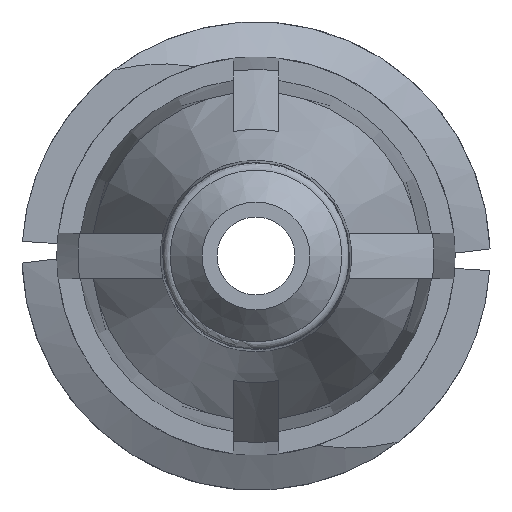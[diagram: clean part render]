
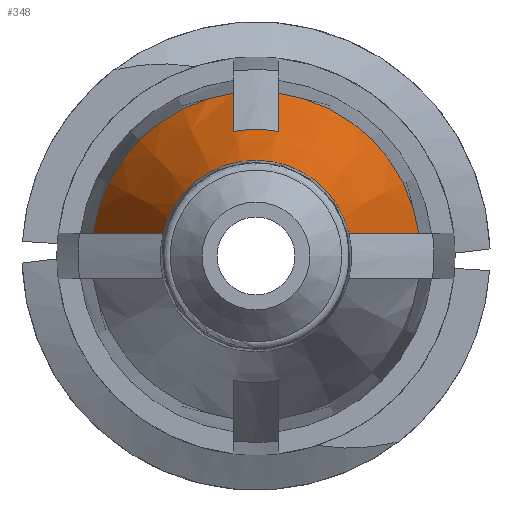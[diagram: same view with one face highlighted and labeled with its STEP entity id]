
A CAD part, front view. The second image highlights one B-rep face of the part: STEP entity #348.
In plain terms, the highlighted conical face has half-angle 20 degrees and reference radius 2.745 mm.
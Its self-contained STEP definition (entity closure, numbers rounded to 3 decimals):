
#6 = DIRECTION ( 'NONE',  ( 0., -1., 0. ) ) ;
#95 = CARTESIAN_POINT ( 'NONE',  ( 1.554, -13.458, 0.381 ) ) ;
#106 = ORIENTED_EDGE ( 'NONE', *, *, #1092, .F. ) ;
#120 = AXIS2_PLACEMENT_3D ( 'NONE', #1454, #629, #1775 ) ;
#150 = B_SPLINE_CURVE_WITH_KNOTS ( 'NONE', 3,
 ( #1076, #421, #1100, #1872 ),
 .UNSPECIFIED., .F., .F.,
 ( 4, 4 ),
 ( 0.002, 0.004 ),
 .UNSPECIFIED. ) ;
#183 = CARTESIAN_POINT ( 'NONE',  ( -2.719, -10.312, 0.381 ) ) ;
#191 = VERTEX_POINT ( 'NONE', #809 ) ;
#192 = CARTESIAN_POINT ( 'NONE',  ( -1.947, -12.411, 0.381 ) ) ;
#196 = CARTESIAN_POINT ( 'NONE',  ( -2.719, -10.312, 0.381 ) ) ;
#218 = AXIS2_PLACEMENT_3D ( 'NONE', #473, #1139, #1097 ) ;
#230 = VERTEX_POINT ( 'NONE', #1810 ) ;
#345 = AXIS2_PLACEMENT_3D ( 'NONE', #1127, #1284, #1965 ) ;
#348 = ADVANCED_FACE ( 'NONE', ( #611 ), #761, .T. ) ;
#351 = CARTESIAN_POINT ( 'NONE',  ( -2.333, -11.362, 0.381 ) ) ;
#380 = CARTESIAN_POINT ( 'NONE',  ( 0.381, -10.888, 2.507 ) ) ;
#390 = ORIENTED_EDGE ( 'NONE', *, *, #1379, .F. ) ;
#392 = CARTESIAN_POINT ( 'NONE',  ( 0.381, -10.312, 2.719 ) ) ;
#421 = CARTESIAN_POINT ( 'NONE',  ( -0.381, -11.463, 2.295 ) ) ;
#473 = CARTESIAN_POINT ( 'NONE',  ( 0., -13.458, 0. ) ) ;
#611 = FACE_OUTER_BOUND ( 'NONE', #1659, .T. ) ;
#629 = DIRECTION ( 'NONE',  ( 0., 1., 0. ) ) ;
#650 = CIRCLE ( 'NONE', #1531, 2.745 ) ;
#662 = EDGE_CURVE ( 'NONE', #1605, #191, #952, .T. ) ;
#665 = CARTESIAN_POINT ( 'NONE',  ( -0.381, -10.312, 2.719 ) ) ;
#717 = ORIENTED_EDGE ( 'NONE', *, *, #925, .F. ) ;
#722 = VERTEX_POINT ( 'NONE', #824 ) ;
#729 = CARTESIAN_POINT ( 'NONE',  ( 0.381, -12.038, 2.082 ) ) ;
#741 = CARTESIAN_POINT ( 'NONE',  ( 2.333, -11.362, 0.381 ) ) ;
#761 = CONICAL_SURFACE ( 'NONE', #120, 2.745, 0.349 ) ;
#783 = ORIENTED_EDGE ( 'NONE', *, *, #662, .T. ) ;
#809 = CARTESIAN_POINT ( 'NONE',  ( -1.554, -13.458, 0.381 ) ) ;
#824 = CARTESIAN_POINT ( 'NONE',  ( 1.554, -13.458, 0.381 ) ) ;
#835 = AXIS2_PLACEMENT_3D ( 'NONE', #1494, #6, #1311 ) ;
#889 = DIRECTION ( 'NONE',  ( 0., 1., 0. ) ) ;
#892 = B_SPLINE_CURVE_WITH_KNOTS ( 'NONE', 3,
 ( #392, #380, #904, #729 ),
 .UNSPECIFIED., .F., .F.,
 ( 4, 4 ),
 ( 0.003, 0.005 ),
 .UNSPECIFIED. ) ;
#904 = CARTESIAN_POINT ( 'NONE',  ( 0.381, -11.463, 2.295 ) ) ;
#925 = EDGE_CURVE ( 'NONE', #230, #722, #998, .T. ) ;
#952 = B_SPLINE_CURVE_WITH_KNOTS ( 'NONE', 3,
 ( #183, #351, #192, #1141 ),
 .UNSPECIFIED., .F., .F.,
 ( 4, 4 ),
 ( 0.003, 0.007 ),
 .UNSPECIFIED. ) ;
#998 = B_SPLINE_CURVE_WITH_KNOTS ( 'NONE', 3,
 ( #1712, #741, #1878, #95 ),
 .UNSPECIFIED., .F., .F.,
 ( 4, 4 ),
 ( 0.003, 0.007 ),
 .UNSPECIFIED. ) ;
#1076 = CARTESIAN_POINT ( 'NONE',  ( -0.381, -12.038, 2.082 ) ) ;
#1086 = CIRCLE ( 'NONE', #218, 1.6 ) ;
#1092 = EDGE_CURVE ( 'NONE', #1362, #230, #650, .T. ) ;
#1097 = DIRECTION ( 'NONE',  ( 1., 0., 0. ) ) ;
#1100 = CARTESIAN_POINT ( 'NONE',  ( -0.381, -10.888, 2.507 ) ) ;
#1127 = CARTESIAN_POINT ( 'NONE',  ( 0., -10.312, 0. ) ) ;
#1139 = DIRECTION ( 'NONE',  ( 0., 1., 0. ) ) ;
#1141 = CARTESIAN_POINT ( 'NONE',  ( -1.554, -13.458, 0.381 ) ) ;
#1161 = CARTESIAN_POINT ( 'NONE',  ( 0.381, -10.312, 2.719 ) ) ;
#1206 = VERTEX_POINT ( 'NONE', #1271 ) ;
#1271 = CARTESIAN_POINT ( 'NONE',  ( 0.381, -12.038, 2.082 ) ) ;
#1281 = CIRCLE ( 'NONE', #345, 2.745 ) ;
#1284 = DIRECTION ( 'NONE',  ( 0., 1., 0. ) ) ;
#1290 = EDGE_CURVE ( 'NONE', #2050, #1660, #150, .T. ) ;
#1311 = DIRECTION ( 'NONE',  ( -1., 0., 0. ) ) ;
#1362 = VERTEX_POINT ( 'NONE', #1161 ) ;
#1363 = ORIENTED_EDGE ( 'NONE', *, *, #1290, .T. ) ;
#1379 = EDGE_CURVE ( 'NONE', #1605, #1660, #1281, .T. ) ;
#1384 = CARTESIAN_POINT ( 'NONE',  ( -0.381, -12.038, 2.082 ) ) ;
#1454 = CARTESIAN_POINT ( 'NONE',  ( 0., -10.312, 0. ) ) ;
#1494 = CARTESIAN_POINT ( 'NONE',  ( 0., -12.038, 0. ) ) ;
#1531 = AXIS2_PLACEMENT_3D ( 'NONE', #1863, #889, #1717 ) ;
#1570 = EDGE_CURVE ( 'NONE', #191, #722, #1086, .T. ) ;
#1605 = VERTEX_POINT ( 'NONE', #196 ) ;
#1659 = EDGE_LOOP ( 'NONE', ( #717, #106, #2015, #1837, #1363, #390, #783, #1981 ) ) ;
#1660 = VERTEX_POINT ( 'NONE', #665 ) ;
#1712 = CARTESIAN_POINT ( 'NONE',  ( 2.719, -10.312, 0.381 ) ) ;
#1717 = DIRECTION ( 'NONE',  ( 1., 0., 0. ) ) ;
#1765 = CIRCLE ( 'NONE', #835, 2.117 ) ;
#1775 = DIRECTION ( 'NONE',  ( 1., 0., 0. ) ) ;
#1810 = CARTESIAN_POINT ( 'NONE',  ( 2.719, -10.312, 0.381 ) ) ;
#1837 = ORIENTED_EDGE ( 'NONE', *, *, #1855, .T. ) ;
#1855 = EDGE_CURVE ( 'NONE', #1206, #2050, #1765, .T. ) ;
#1863 = CARTESIAN_POINT ( 'NONE',  ( 0., -10.312, 0. ) ) ;
#1872 = CARTESIAN_POINT ( 'NONE',  ( -0.381, -10.312, 2.719 ) ) ;
#1878 = CARTESIAN_POINT ( 'NONE',  ( 1.947, -12.411, 0.381 ) ) ;
#1965 = DIRECTION ( 'NONE',  ( 1., 0., 0. ) ) ;
#1970 = EDGE_CURVE ( 'NONE', #1362, #1206, #892, .T. ) ;
#1981 = ORIENTED_EDGE ( 'NONE', *, *, #1570, .T. ) ;
#2015 = ORIENTED_EDGE ( 'NONE', *, *, #1970, .T. ) ;
#2050 = VERTEX_POINT ( 'NONE', #1384 ) ;
